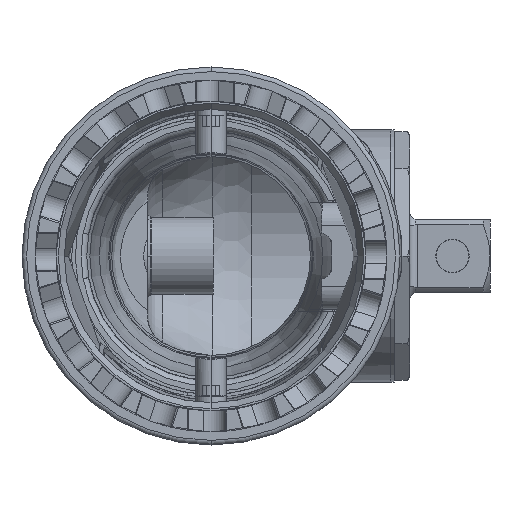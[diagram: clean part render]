
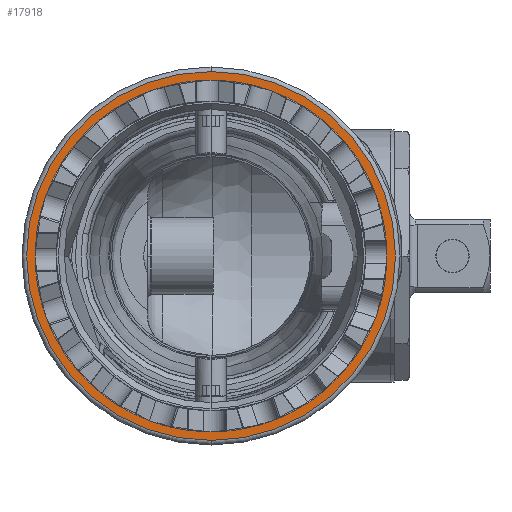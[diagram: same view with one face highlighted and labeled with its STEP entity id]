
A CAD part, left-side view. The second image highlights one B-rep face of the part: STEP entity #17918.
In plain terms, the highlighted planar face has unit normal (-1, 0, 0).
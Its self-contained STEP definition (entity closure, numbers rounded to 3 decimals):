
#13697 = EDGE_CURVE ( 'NONE', #13698, #13699, #61345, .T. ) ;
#13698 = VERTEX_POINT ( 'NONE', #61340 ) ;
#13699 = VERTEX_POINT ( 'NONE', #61338 ) ;
#13715 = EDGE_CURVE ( 'NONE', #13716, #13718, #61401, .T. ) ;
#13716 = VERTEX_POINT ( 'NONE', #61392 ) ;
#13718 = VERTEX_POINT ( 'NONE', #61391 ) ;
#14067 = DIRECTION ( 'NONE',  ( 0., 0., 1. ) ) ;
#14069 = DIRECTION ( 'NONE',  ( -1., 0., 0. ) ) ;
#14070 = CARTESIAN_POINT ( 'NONE',  ( -429.2, 0., 0. ) ) ;
#14072 = AXIS2_PLACEMENT_3D ( 'NONE', #14070, #14069, #14067 ) ;
#14074 = CIRCLE ( 'NONE', #14072, 23. ) ;
#14323 = FACE_BOUND ( 'NONE', #17924, .T. ) ;
#14324 = FACE_OUTER_BOUND ( 'NONE', #17919, .T. ) ;
#14697 = DIRECTION ( 'NONE',  ( 0., 0., 1. ) ) ;
#14699 = DIRECTION ( 'NONE',  ( -1., 0., 0. ) ) ;
#14701 = CARTESIAN_POINT ( 'NONE',  ( -429.2, 0., 0. ) ) ;
#14703 = AXIS2_PLACEMENT_3D ( 'NONE', #14701, #14699, #14697 ) ;
#14709 = DIRECTION ( 'NONE',  ( 0., 0., 1. ) ) ;
#14710 = DIRECTION ( 'NONE',  ( -1., 0., 0. ) ) ;
#14712 = CARTESIAN_POINT ( 'NONE',  ( -429.2, 0., 0. ) ) ;
#14713 = AXIS2_PLACEMENT_3D ( 'NONE', #14712, #14710, #14709 ) ;
#14714 = CIRCLE ( 'NONE', #14703, 24.129 ) ;
#14720 = PLANE ( 'NONE',  #14713 ) ;
#17894 = EDGE_CURVE ( 'NONE', #13699, #13698, #14074, .T. ) ;
#17918 = ADVANCED_FACE ( 'NONE', ( #14324, #14323 ), #14720, .T. ) ;
#17919 = EDGE_LOOP ( 'NONE', ( #17920, #17922 ) ) ;
#17920 = ORIENTED_EDGE ( 'NONE', *, *, #17921, .T. ) ;
#17921 = EDGE_CURVE ( 'NONE', #13718, #13716, #14714, .T. ) ;
#17922 = ORIENTED_EDGE ( 'NONE', *, *, #13715, .T. ) ;
#17924 = EDGE_LOOP ( 'NONE', ( #17926, #17927 ) ) ;
#17926 = ORIENTED_EDGE ( 'NONE', *, *, #13697, .F. ) ;
#17927 = ORIENTED_EDGE ( 'NONE', *, *, #17894, .F. ) ;
#61338 = CARTESIAN_POINT ( 'NONE',  ( -429.2, 0., -23. ) ) ;
#61340 = CARTESIAN_POINT ( 'NONE',  ( -429.2, 0., 23. ) ) ;
#61341 = DIRECTION ( 'NONE',  ( 0., 0., 1. ) ) ;
#61342 = DIRECTION ( 'NONE',  ( -1., 0., 0. ) ) ;
#61343 = CARTESIAN_POINT ( 'NONE',  ( -429.2, 0., 0. ) ) ;
#61344 = AXIS2_PLACEMENT_3D ( 'NONE', #61343, #61342, #61341 ) ;
#61345 = CIRCLE ( 'NONE', #61344, 23. ) ;
#61391 = CARTESIAN_POINT ( 'NONE',  ( -429.2, 0., -24.129 ) ) ;
#61392 = CARTESIAN_POINT ( 'NONE',  ( -429.2, 0., 24.129 ) ) ;
#61393 = DIRECTION ( 'NONE',  ( 0., 0., 1. ) ) ;
#61394 = DIRECTION ( 'NONE',  ( -1., 0., 0. ) ) ;
#61395 = CARTESIAN_POINT ( 'NONE',  ( -429.2, 0., 0. ) ) ;
#61396 = AXIS2_PLACEMENT_3D ( 'NONE', #61395, #61394, #61393 ) ;
#61401 = CIRCLE ( 'NONE', #61396, 24.129 ) ;
